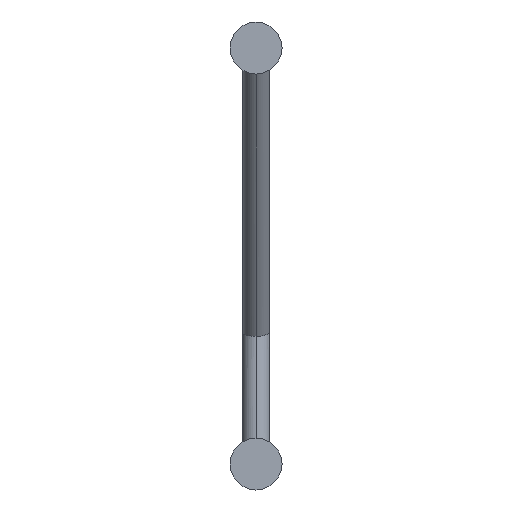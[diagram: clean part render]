
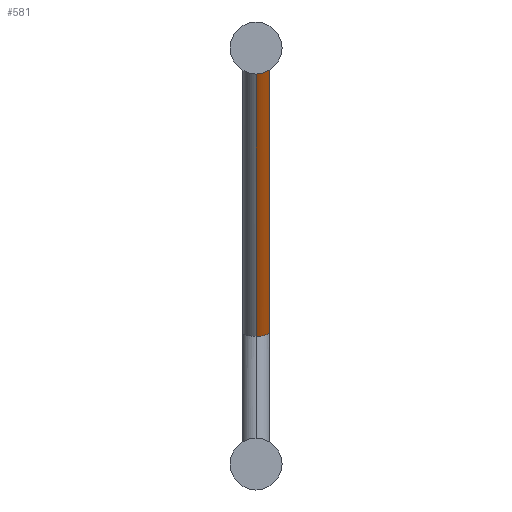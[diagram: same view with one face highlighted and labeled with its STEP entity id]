
A CAD part, front view. The second image highlights one B-rep face of the part: STEP entity #581.
In plain terms, the highlighted cylindrical face has radius 4 mm (diameter 8 mm), a partial arc.
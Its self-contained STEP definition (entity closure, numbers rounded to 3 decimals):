
#69 = CARTESIAN_POINT ( 'NONE',  ( 0., 72.321, 116. ) ) ;
#70 = CARTESIAN_POINT ( 'NONE',  ( 4., 74.403, 120. ) ) ;
#78 = CARTESIAN_POINT ( 'NONE',  ( 0., 76.485, 124. ) ) ;
#81 = CARTESIAN_POINT ( 'NONE',  ( 0., 127.75, 36.839 ) ) ;
#84 = CARTESIAN_POINT ( 'NONE',  ( 0., 135.75, 39.361 ) ) ;
#209 = CARTESIAN_POINT ( 'NONE',  ( 0., 127.75, 36.839 ) ) ;
#249 = CARTESIAN_POINT ( 'NONE',  ( 0., 135.75, 39.361 ) ) ;
#254 = CARTESIAN_POINT ( 'NONE',  ( 8., 135.75, 39.361 ) ) ;
#256 = DIRECTION ( 'NONE',  ( 0., -0.819, -0.574 ) ) ;
#258 = CARTESIAN_POINT ( 'NONE',  ( 0., 131.75, 38.1 ) ) ;
#259 = FACE_OUTER_BOUND ( 'NONE', #937, .T. ) ;
#261 = CYLINDRICAL_SURFACE ( 'NONE', #1151, 4. ) ;
#264 = DIRECTION ( 'NONE',  ( 0., -0.574, 0.819 ) ) ;
#489 = CARTESIAN_POINT ( 'NONE',  ( 8., 127.75, 36.839 ) ) ;
#549 = EDGE_CURVE ( 'NONE', #1069, #1095, #646, .T. ) ;
#550 = EDGE_CURVE ( 'NONE', #1085, #1095, #1265, .T. ) ;
#551 = EDGE_CURVE ( 'NONE', #1077, #1085, #1257, .T. ) ;
#552 = EDGE_CURVE ( 'NONE', #1070, #1077, #607, .T. ) ;
#556 = EDGE_CURVE ( 'NONE', #1069, #1070, #1256, .T. ) ;
#581 = ADVANCED_FACE ( 'NONE', ( #259 ), #261, .T. ) ;
#605 = DIRECTION ( 'NONE',  ( 0., -0.574, 0.819 ) ) ;
#606 = CARTESIAN_POINT ( 'NONE',  ( 0., 135.027, 40.394 ) ) ;
#607 = LINE ( 'NONE', #606, #1165 ) ;
#608 = CARTESIAN_POINT ( 'NONE',  ( 4., 74.403, 120. ) ) ;
#609 = CARTESIAN_POINT ( 'NONE',  ( 4., 75.623, 122.343 ) ) ;
#610 = CARTESIAN_POINT ( 'NONE',  ( 2.343, 76.485, 124. ) ) ;
#612 = CARTESIAN_POINT ( 'NONE',  ( 0., 72.321, 116. ) ) ;
#613 = CARTESIAN_POINT ( 'NONE',  ( 2.343, 72.321, 116. ) ) ;
#614 = CARTESIAN_POINT ( 'NONE',  ( 4., 73.183, 117.657 ) ) ;
#616 = CARTESIAN_POINT ( 'NONE',  ( 0., 76.485, 124. ) ) ;
#617 = DIRECTION ( 'NONE',  ( 0., -0.574, 0.819 ) ) ;
#618 = CARTESIAN_POINT ( 'NONE',  ( 0., 128.473, 35.806 ) ) ;
#646 = LINE ( 'NONE', #618, #1149 ) ;
#648 = CARTESIAN_POINT ( 'NONE',  ( 4., 74.403, 120. ) ) ;
#877 = ORIENTED_EDGE ( 'NONE', *, *, #549, .F. ) ;
#878 = ORIENTED_EDGE ( 'NONE', *, *, #550, .T. ) ;
#879 = ORIENTED_EDGE ( 'NONE', *, *, #551, .T. ) ;
#880 = ORIENTED_EDGE ( 'NONE', *, *, #552, .T. ) ;
#881 = ORIENTED_EDGE ( 'NONE', *, *, #556, .T. ) ;
#937 = EDGE_LOOP ( 'NONE', ( #881, #880, #879, #878, #877 ) ) ;
#1069 = VERTEX_POINT ( 'NONE', #81 ) ;
#1070 = VERTEX_POINT ( 'NONE', #84 ) ;
#1077 = VERTEX_POINT ( 'NONE', #78 ) ;
#1085 = VERTEX_POINT ( 'NONE', #70 ) ;
#1095 = VERTEX_POINT ( 'NONE', #69 ) ;
#1149 = VECTOR ( 'NONE', #617, 1000. ) ;
#1151 = AXIS2_PLACEMENT_3D ( 'NONE', #258, #264, #256 ) ;
#1165 = VECTOR ( 'NONE', #605, 1000. ) ;
#1256 =( BOUNDED_CURVE ( )  B_SPLINE_CURVE ( 3, ( #209, #489, #254, #249 ),
 .UNSPECIFIED., .F., .T. ) 
 B_SPLINE_CURVE_WITH_KNOTS ( ( 4, 4 ),
 ( 0., 3.142 ),
 .UNSPECIFIED. ) 
 CURVE ( )  GEOMETRIC_REPRESENTATION_ITEM ( )  RATIONAL_B_SPLINE_CURVE ( ( 1., 0.333, 0.333, 1. ) ) 
 REPRESENTATION_ITEM ( '' )  );
#1257 =( BOUNDED_CURVE ( )  B_SPLINE_CURVE ( 3, ( #616, #610, #609, #608 ),
 .UNSPECIFIED., .F., .T. ) 
 B_SPLINE_CURVE_WITH_KNOTS ( ( 4, 4 ),
 ( 0., 1.571 ),
 .UNSPECIFIED. ) 
 CURVE ( )  GEOMETRIC_REPRESENTATION_ITEM ( )  RATIONAL_B_SPLINE_CURVE ( ( 1., 0.805, 0.805, 1. ) ) 
 REPRESENTATION_ITEM ( '' )  );
#1265 =( BOUNDED_CURVE ( )  B_SPLINE_CURVE ( 3, ( #648, #614, #613, #612 ),
 .UNSPECIFIED., .F., .T. ) 
 B_SPLINE_CURVE_WITH_KNOTS ( ( 4, 4 ),
 ( 1.571, 3.142 ),
 .UNSPECIFIED. ) 
 CURVE ( )  GEOMETRIC_REPRESENTATION_ITEM ( )  RATIONAL_B_SPLINE_CURVE ( ( 1., 0.805, 0.805, 1. ) ) 
 REPRESENTATION_ITEM ( '' )  );
